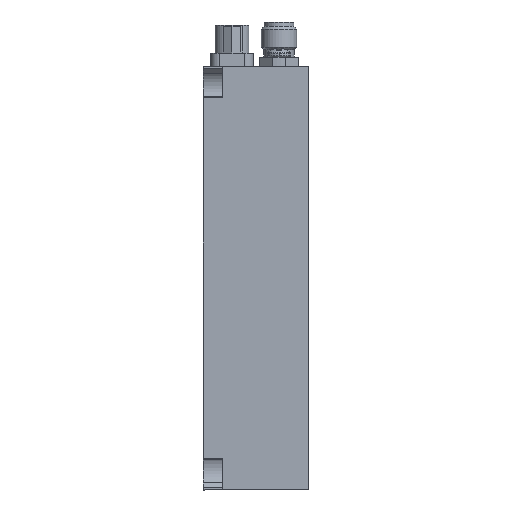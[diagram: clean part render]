
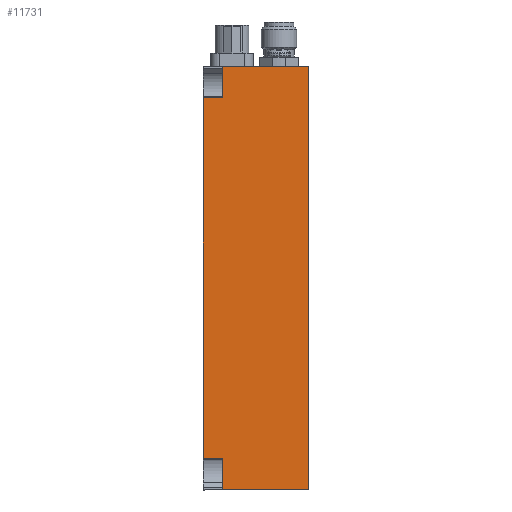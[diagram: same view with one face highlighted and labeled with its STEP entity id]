
A CAD part, left-side view. The second image highlights one B-rep face of the part: STEP entity #11731.
In plain terms, the highlighted planar face has unit normal (-1, 0, 0).
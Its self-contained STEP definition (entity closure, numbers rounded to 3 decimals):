
#205 = CARTESIAN_POINT ( 'NONE',  ( -5.352, 54.648, 88.437 ) ) ;
#986 = EDGE_CURVE ( 'NONE', #17982, #7282, #22394, .T. ) ;
#1101 = ORIENTED_EDGE ( 'NONE', *, *, #26986, .F. ) ;
#1320 = VECTOR ( 'NONE', #26520, 1000. ) ;
#1585 = CARTESIAN_POINT ( 'NONE',  ( -5.352, 35.598, 94.101 ) ) ;
#1843 = CARTESIAN_POINT ( 'NONE',  ( -5.352, 51.092, 88.437 ) ) ;
#2930 = VECTOR ( 'NONE', #3735, 1000. ) ;
#2976 = VERTEX_POINT ( 'NONE', #205 ) ;
#3167 = CARTESIAN_POINT ( 'NONE',  ( -5.352, 54.648, 94.101 ) ) ;
#3203 = ORIENTED_EDGE ( 'NONE', *, *, #30417, .T. ) ;
#3373 = ORIENTED_EDGE ( 'NONE', *, *, #11904, .T. ) ;
#3729 = VERTEX_POINT ( 'NONE', #25835 ) ;
#3735 = DIRECTION ( 'NONE',  ( 0., 1., 0. ) ) ;
#5475 = CARTESIAN_POINT ( 'NONE',  ( -5.352, 54.648, 17.901 ) ) ;
#5979 = LINE ( 'NONE', #9234, #29733 ) ;
#6785 = DIRECTION ( 'NONE',  ( 0., -1., 0. ) ) ;
#7282 = VERTEX_POINT ( 'NONE', #1585 ) ;
#8801 = CARTESIAN_POINT ( 'NONE',  ( -5.352, 35.598, 17.901 ) ) ;
#9164 = CARTESIAN_POINT ( 'NONE',  ( -5.352, 51.092, 23.566 ) ) ;
#9234 = CARTESIAN_POINT ( 'NONE',  ( -5.352, 51.092, 17.901 ) ) ;
#9377 = CARTESIAN_POINT ( 'NONE',  ( -5.352, 51.092, 17.901 ) ) ;
#9395 = VECTOR ( 'NONE', #18270, 1000. ) ;
#9752 = ORIENTED_EDGE ( 'NONE', *, *, #986, .F. ) ;
#9911 = EDGE_CURVE ( 'NONE', #3729, #7282, #15532, .T. ) ;
#10980 = EDGE_LOOP ( 'NONE', ( #1101, #32854, #24907, #3373, #17583, #9752, #24974, #3203 ) ) ;
#11546 = CARTESIAN_POINT ( 'NONE',  ( -5.352, 51.092, 88.437 ) ) ;
#11731 = ADVANCED_FACE ( 'NONE', ( #23370 ), #25390, .F. ) ;
#11903 = CARTESIAN_POINT ( 'NONE',  ( -5.352, 51.092, 94.101 ) ) ;
#11904 = EDGE_CURVE ( 'NONE', #17070, #3729, #20199, .T. ) ;
#12218 = LINE ( 'NONE', #11903, #17793 ) ;
#12888 = DIRECTION ( 'NONE',  ( 1., 0., 0. ) ) ;
#14736 = EDGE_CURVE ( 'NONE', #28520, #27315, #16148, .T. ) ;
#15532 = LINE ( 'NONE', #8801, #1320 ) ;
#16148 = LINE ( 'NONE', #25884, #9395 ) ;
#16411 = LINE ( 'NONE', #28729, #29448 ) ;
#17070 = VERTEX_POINT ( 'NONE', #9377 ) ;
#17100 = CARTESIAN_POINT ( 'NONE',  ( -5.352, 54.648, 17.901 ) ) ;
#17583 = ORIENTED_EDGE ( 'NONE', *, *, #9911, .T. ) ;
#17793 = VECTOR ( 'NONE', #32155, 1000. ) ;
#17835 = CARTESIAN_POINT ( 'NONE',  ( -5.352, 54.648, 23.566 ) ) ;
#17982 = VERTEX_POINT ( 'NONE', #18075 ) ;
#18075 = CARTESIAN_POINT ( 'NONE',  ( -5.352, 51.092, 94.101 ) ) ;
#18270 = DIRECTION ( 'NONE',  ( 0., 1., 0. ) ) ;
#20199 = LINE ( 'NONE', #17100, #24949 ) ;
#21457 = EDGE_CURVE ( 'NONE', #17070, #28520, #5979, .T. ) ;
#22394 = LINE ( 'NONE', #3167, #27149 ) ;
#23073 = DIRECTION ( 'NONE',  ( 0., 0., -1. ) ) ;
#23148 = EDGE_CURVE ( 'NONE', #26358, #17982, #12218, .T. ) ;
#23370 = FACE_OUTER_BOUND ( 'NONE', #10980, .T. ) ;
#24907 = ORIENTED_EDGE ( 'NONE', *, *, #21457, .F. ) ;
#24949 = VECTOR ( 'NONE', #6785, 1000. ) ;
#24974 = ORIENTED_EDGE ( 'NONE', *, *, #23148, .F. ) ;
#25107 = AXIS2_PLACEMENT_3D ( 'NONE', #5475, #12888, #23073 ) ;
#25390 = PLANE ( 'NONE',  #25107 ) ;
#25835 = CARTESIAN_POINT ( 'NONE',  ( -5.352, 35.598, 17.901 ) ) ;
#25884 = CARTESIAN_POINT ( 'NONE',  ( -5.352, 51.092, 23.566 ) ) ;
#26358 = VERTEX_POINT ( 'NONE', #1843 ) ;
#26520 = DIRECTION ( 'NONE',  ( 0., 0., 1. ) ) ;
#26986 = EDGE_CURVE ( 'NONE', #27315, #2976, #16411, .T. ) ;
#27149 = VECTOR ( 'NONE', #30937, 1000. ) ;
#27315 = VERTEX_POINT ( 'NONE', #17835 ) ;
#28520 = VERTEX_POINT ( 'NONE', #9164 ) ;
#28729 = CARTESIAN_POINT ( 'NONE',  ( -5.352, 54.648, 17.901 ) ) ;
#29448 = VECTOR ( 'NONE', #31597, 1000. ) ;
#29733 = VECTOR ( 'NONE', #31827, 1000. ) ;
#30417 = EDGE_CURVE ( 'NONE', #26358, #2976, #31066, .T. ) ;
#30937 = DIRECTION ( 'NONE',  ( 0., -1., 0. ) ) ;
#31066 = LINE ( 'NONE', #11546, #2930 ) ;
#31597 = DIRECTION ( 'NONE',  ( 0., 0., 1. ) ) ;
#31827 = DIRECTION ( 'NONE',  ( 0., 0., 1. ) ) ;
#32155 = DIRECTION ( 'NONE',  ( 0., 0., 1. ) ) ;
#32854 = ORIENTED_EDGE ( 'NONE', *, *, #14736, .F. ) ;
